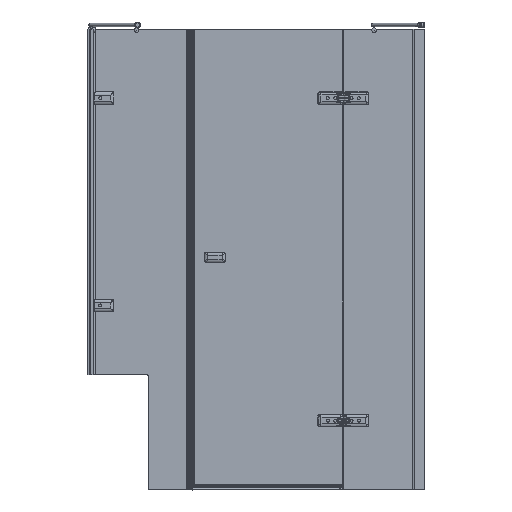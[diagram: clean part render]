
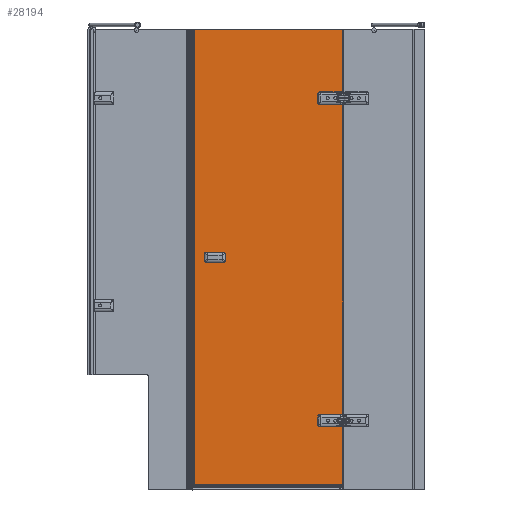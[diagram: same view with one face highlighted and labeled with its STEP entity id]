
A CAD part, left-side view. The second image highlights one B-rep face of the part: STEP entity #28194.
In plain terms, the highlighted planar face has unit normal (-1, 0, 0).
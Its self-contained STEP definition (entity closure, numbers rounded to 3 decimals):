
#293=FACE_BOUND($,#4893,.T.);
#294=FACE_BOUND($,#4894,.T.);
#295=FACE_BOUND($,#4895,.T.);
#1048=CIRCLE($,#29299,6.5);
#1207=CIRCLE($,#29724,6.5);
#1494=CIRCLE($,#30561,10.);
#1495=CIRCLE($,#30562,10.);
#1496=CIRCLE($,#30563,10.);
#1497=CIRCLE($,#30564,10.);
#4893=EDGE_LOOP($,(#23341));
#4894=EDGE_LOOP($,(#23342));
#4895=EDGE_LOOP($,(#23343,#23344,#23345,#23346,#23347,#23348,#23349,#23350,
#23351,#23352,#23353,#23354,#23355,#23356,#23357,#23358));
#6393=LINE($,#58521,#8803);
#6841=LINE($,#60969,#9251);
#7027=LINE($,#64482,#9437);
#7614=LINE($,#66450,#10024);
#7616=LINE($,#66456,#10026);
#7632=LINE($,#66681,#10042);
#7633=LINE($,#66684,#10043);
#7634=LINE($,#66685,#10044);
#7635=LINE($,#66689,#10045);
#7636=LINE($,#66692,#10046);
#7637=LINE($,#66696,#10047);
#7638=LINE($,#66699,#10048);
#8803=VECTOR($,#33857,1362.);
#9251=VECTOR($,#35157,281.);
#9437=VECTOR($,#35811,644.147);
#10024=VECTOR($,#37164,30.747);
#10026=VECTOR($,#37170,256.4);
#10042=VECTOR($,#37230,30.747);
#10043=VECTOR($,#37233,1975.4);
#10044=VECTOR($,#37234,644.147);
#10045=VECTOR($,#37237,18.);
#10046=VECTOR($,#37240,30.747);
#10047=VECTOR($,#37243,18.);
#10048=VECTOR($,#37246,30.747);
#11238=VERTEX_POINT($,#57415);
#11421=VERTEX_POINT($,#58518);
#11422=VERTEX_POINT($,#58520);
#11665=VERTEX_POINT($,#59863);
#11847=VERTEX_POINT($,#60966);
#11848=VERTEX_POINT($,#60968);
#12118=VERTEX_POINT($,#64480);
#12562=VERTEX_POINT($,#66448);
#12563=VERTEX_POINT($,#66453);
#12564=VERTEX_POINT($,#66455);
#12598=VERTEX_POINT($,#66679);
#12599=VERTEX_POINT($,#66683);
#12600=VERTEX_POINT($,#66686);
#12601=VERTEX_POINT($,#66688);
#12602=VERTEX_POINT($,#66690);
#12603=VERTEX_POINT($,#66693);
#12604=VERTEX_POINT($,#66695);
#12605=VERTEX_POINT($,#66697);
#14140=EDGE_CURVE($,#11238,#11238,#1048,.T.);
#14431=EDGE_CURVE($,#11421,#11422,#6393,.T.);
#14821=EDGE_CURVE($,#11665,#11665,#1207,.T.);
#15112=EDGE_CURVE($,#11847,#11848,#6841,.T.);
#15494=EDGE_CURVE($,#11847,#12118,#7027,.T.);
#16227=EDGE_CURVE($,#12562,#11421,#7614,.T.);
#16230=EDGE_CURVE($,#12563,#12564,#7616,.T.);
#16273=EDGE_CURVE($,#12598,#12563,#7632,.T.);
#16274=EDGE_CURVE($,#12118,#12599,#7633,.T.);
#16275=EDGE_CURVE($,#12599,#12564,#7634,.T.);
#16276=EDGE_CURVE($,#12598,#12600,#1494,.T.);
#16277=EDGE_CURVE($,#12601,#12600,#7635,.T.);
#16278=EDGE_CURVE($,#12601,#12602,#1495,.T.);
#16279=EDGE_CURVE($,#11422,#12602,#7636,.T.);
#16280=EDGE_CURVE($,#12562,#12603,#1496,.T.);
#16281=EDGE_CURVE($,#12604,#12603,#7637,.T.);
#16282=EDGE_CURVE($,#12604,#12605,#1497,.T.);
#16283=EDGE_CURVE($,#11848,#12605,#7638,.T.);
#23341=ORIENTED_EDGE($,*,*,#14140,.F.);
#23342=ORIENTED_EDGE($,*,*,#14821,.F.);
#23343=ORIENTED_EDGE($,*,*,#15112,.F.);
#23344=ORIENTED_EDGE($,*,*,#15494,.T.);
#23345=ORIENTED_EDGE($,*,*,#16274,.T.);
#23346=ORIENTED_EDGE($,*,*,#16275,.T.);
#23347=ORIENTED_EDGE($,*,*,#16230,.F.);
#23348=ORIENTED_EDGE($,*,*,#16273,.F.);
#23349=ORIENTED_EDGE($,*,*,#16276,.T.);
#23350=ORIENTED_EDGE($,*,*,#16277,.F.);
#23351=ORIENTED_EDGE($,*,*,#16278,.T.);
#23352=ORIENTED_EDGE($,*,*,#16279,.F.);
#23353=ORIENTED_EDGE($,*,*,#14431,.F.);
#23354=ORIENTED_EDGE($,*,*,#16227,.F.);
#23355=ORIENTED_EDGE($,*,*,#16280,.T.);
#23356=ORIENTED_EDGE($,*,*,#16281,.F.);
#23357=ORIENTED_EDGE($,*,*,#16282,.T.);
#23358=ORIENTED_EDGE($,*,*,#16283,.F.);
#25216=PLANE($,#30560);
#28194=ADVANCED_FACE($,(#293,#294,#295),#25216,.F.);
#29299=AXIS2_PLACEMENT_3D($,#57416,#33286,#33287);
#29724=AXIS2_PLACEMENT_3D($,#59864,#34584,#34585);
#30560=AXIS2_PLACEMENT_3D($,#66682,#37231,#37232);
#30561=AXIS2_PLACEMENT_3D($,#66687,#37235,#37236);
#30562=AXIS2_PLACEMENT_3D($,#66691,#37238,#37239);
#30563=AXIS2_PLACEMENT_3D($,#66694,#37241,#37242);
#30564=AXIS2_PLACEMENT_3D($,#66698,#37244,#37245);
#33286=DIRECTION('center_axis',(-1.,0.,0.));
#33287=DIRECTION('ref_axis',(0.,-1.,0.));
#33857=DIRECTION($,(0.,0.,-1.));
#34584=DIRECTION('center_axis',(-1.,0.,0.));
#34585=DIRECTION('ref_axis',(0.,-1.,0.));
#35157=DIRECTION($,(0.,0.,-1.));
#35811=DIRECTION($,(0.,1.,0.));
#37164=DIRECTION($,(0.,-1.,0.));
#37170=DIRECTION($,(0.,0.,-1.));
#37230=DIRECTION($,(0.,-1.,0.));
#37231=DIRECTION('center_axis',(1.,0.,0.));
#37232=DIRECTION('ref_axis',(0.,1.,0.));
#37233=DIRECTION($,(0.,0.,-1.));
#37234=DIRECTION($,(0.,-1.,0.));
#37235=DIRECTION('center_axis',(1.,0.,0.));
#37236=DIRECTION('ref_axis',(0.,0.707,-0.707));
#37237=DIRECTION($,(0.,0.,-1.));
#37238=DIRECTION('center_axis',(1.,0.,0.));
#37239=DIRECTION('ref_axis',(0.,0.707,0.707));
#37240=DIRECTION($,(0.,1.,0.));
#37241=DIRECTION('center_axis',(1.,0.,0.));
#37242=DIRECTION('ref_axis',(0.,0.707,-0.707));
#37243=DIRECTION($,(0.,0.,-1.));
#37244=DIRECTION('center_axis',(1.,0.,0.));
#37245=DIRECTION('ref_axis',(0.,0.707,0.707));
#37246=DIRECTION($,(0.,1.,0.));
#57415=CARTESIAN_POINT('',(1225.733,-1255.144,-214.056));
#57416=CARTESIAN_POINT('Origin',(1225.733,-1261.644,-214.056));
#58518=CARTESIAN_POINT('',(1225.733,-1325.391,1166.944));
#58520=CARTESIAN_POINT('',(1225.733,-1325.391,-195.056));
#58521=CARTESIAN_POINT($,(1225.733,-1325.391,1175.944));
#59863=CARTESIAN_POINT('',(1225.733,-1255.144,1185.944));
#59864=CARTESIAN_POINT('Origin',(1225.733,-1261.644,1185.944));
#60966=CARTESIAN_POINT('',(1225.733,-1325.391,1485.944));
#60968=CARTESIAN_POINT('',(1225.733,-1325.391,1204.944));
#60969=CARTESIAN_POINT($,(1225.733,-1325.391,1195.944));
#64480=CARTESIAN_POINT('',(1225.733,-681.244,1485.944));
#64482=CARTESIAN_POINT($,(1225.733,-1326.644,1485.944));
#66448=CARTESIAN_POINT('',(1225.733,-1294.644,1166.944));
#66450=CARTESIAN_POINT($,(1225.733,-1305.644,1166.944));
#66453=CARTESIAN_POINT('',(1225.733,-1325.391,-233.056));
#66455=CARTESIAN_POINT('',(1225.733,-1325.391,-489.456));
#66456=CARTESIAN_POINT($,(1225.733,-1325.391,-514.056));
#66679=CARTESIAN_POINT('',(1225.733,-1294.644,-233.056));
#66681=CARTESIAN_POINT($,(1225.733,-1305.644,-233.056));
#66682=CARTESIAN_POINT('Origin',(1225.733,-1326.644,-494.056));
#66683=CARTESIAN_POINT('',(1225.733,-681.244,-489.456));
#66684=CARTESIAN_POINT($,(1225.733,-681.244,1485.944));
#66685=CARTESIAN_POINT($,(1225.733,-666.644,-489.456));
#66686=CARTESIAN_POINT('',(1225.733,-1284.644,-223.056));
#66687=CARTESIAN_POINT('Origin',(1225.733,-1294.644,-223.056));
#66688=CARTESIAN_POINT('',(1225.733,-1284.644,-205.056));
#66689=CARTESIAN_POINT($,(1225.733,-1284.644,-344.556));
#66690=CARTESIAN_POINT('',(1225.733,-1294.644,-195.056));
#66691=CARTESIAN_POINT('Origin',(1225.733,-1294.644,-205.056));
#66692=CARTESIAN_POINT($,(1225.733,-1326.644,-195.056));
#66693=CARTESIAN_POINT('',(1225.733,-1284.644,1176.944));
#66694=CARTESIAN_POINT('Origin',(1225.733,-1294.644,1176.944));
#66695=CARTESIAN_POINT('',(1225.733,-1284.644,1194.944));
#66696=CARTESIAN_POINT($,(1225.733,-1284.644,355.444));
#66697=CARTESIAN_POINT('',(1225.733,-1294.644,1204.944));
#66698=CARTESIAN_POINT('Origin',(1225.733,-1294.644,1194.944));
#66699=CARTESIAN_POINT($,(1225.733,-1326.644,1204.944));
